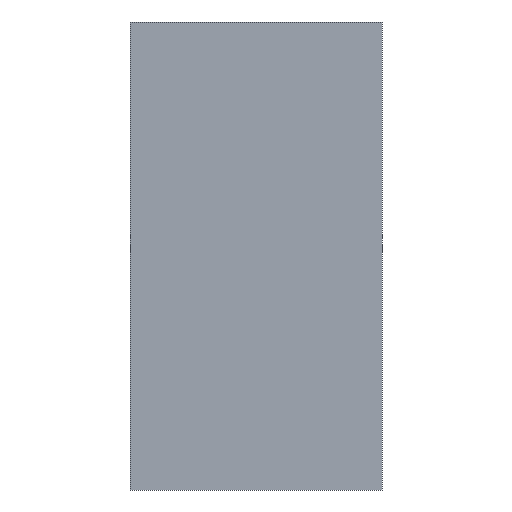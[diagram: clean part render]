
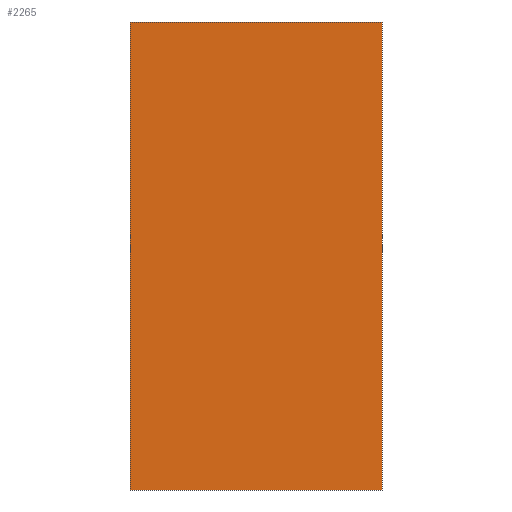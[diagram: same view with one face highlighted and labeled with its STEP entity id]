
A CAD part, front view. The second image highlights one B-rep face of the part: STEP entity #2265.
In plain terms, the highlighted planar face has unit normal (0, -1, 0).
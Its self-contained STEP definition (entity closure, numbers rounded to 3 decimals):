
#254=FACE_OUTER_BOUND('',#379,.T.);
#379=EDGE_LOOP('',(#1533,#1534,#1535,#1536));
#514=LINE('',#3403,#736);
#515=LINE('',#3406,#737);
#516=LINE('',#3408,#738);
#517=LINE('',#3409,#739);
#736=VECTOR('',#2670,130.);
#737=VECTOR('',#2673,70.);
#738=VECTOR('',#2674,70.);
#739=VECTOR('',#2675,130.);
#952=VERTEX_POINT('',#3397);
#954=VERTEX_POINT('',#3401);
#955=VERTEX_POINT('',#3405);
#956=VERTEX_POINT('',#3407);
#1183=EDGE_CURVE('',#952,#954,#514,.T.);
#1184=EDGE_CURVE('',#952,#955,#515,.T.);
#1185=EDGE_CURVE('',#956,#954,#516,.T.);
#1186=EDGE_CURVE('',#955,#956,#517,.T.);
#1533=ORIENTED_EDGE('',*,*,#1184,.F.);
#1534=ORIENTED_EDGE('',*,*,#1183,.T.);
#1535=ORIENTED_EDGE('',*,*,#1185,.F.);
#1536=ORIENTED_EDGE('',*,*,#1186,.F.);
#2197=PLANE('',#2395);
#2265=ADVANCED_FACE('',(#254),#2197,.T.);
#2395=AXIS2_PLACEMENT_3D('',#3404,#2671,#2672);
#2670=DIRECTION('',(0.,0.,1.));
#2671=DIRECTION('center_axis',(0.,-1.,0.));
#2672=DIRECTION('ref_axis',(1.,0.,0.));
#2673=DIRECTION('',(-1.,0.,0.));
#2674=DIRECTION('',(1.,0.,0.));
#2675=DIRECTION('',(0.,0.,1.));
#3397=CARTESIAN_POINT('',(40.692,-4.78,0.));
#3401=CARTESIAN_POINT('',(40.692,-4.78,130.));
#3403=CARTESIAN_POINT('',(40.692,-4.78,0.));
#3404=CARTESIAN_POINT('Origin',(-29.308,-4.78,0.));
#3405=CARTESIAN_POINT('',(-29.308,-4.78,0.));
#3406=CARTESIAN_POINT('',(40.692,-4.78,0.));
#3407=CARTESIAN_POINT('',(-29.308,-4.78,130.));
#3408=CARTESIAN_POINT('',(40.692,-4.78,130.));
#3409=CARTESIAN_POINT('',(-29.308,-4.78,0.));
